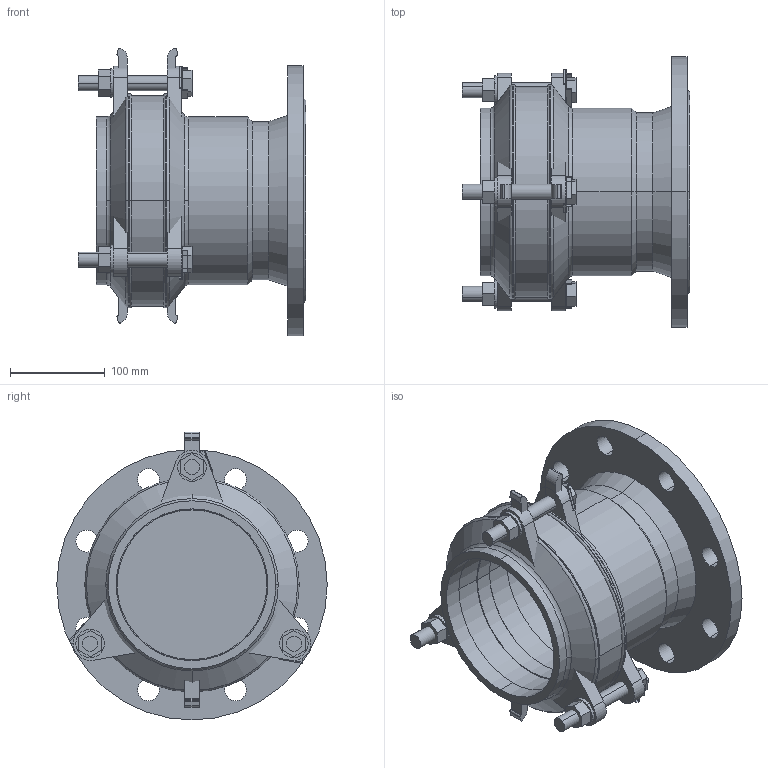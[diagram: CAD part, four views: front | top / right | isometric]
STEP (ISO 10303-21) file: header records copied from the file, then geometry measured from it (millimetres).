
FILE_DESCRIPTION(('STEP AP214'),'1');
FILE_NAME('EM00004947 DN 150-125.STP','2015-01-29T09:20:40',(' '),(' '),'Spatial InterOp 3D',' ',' ');
FILE_SCHEMA(('automotive_design'));
Length unit declared in the file: millimetre
Products named in the file (38): 3D-Objekt
Bounding box: 240 x 285 x 303.5 mm (x, y, z)
Volume: 2818549.7 mm3; surface area: 730094.3 mm2
Topology: 38 solids, 38 shells, 307 faces, 691 edges, 460 vertices
Faces by surface type: plane 186, cylinder 95, cone 14, torus 12
Entity records: 12021 total; most frequent: DIRECTION 1633, CARTESIAN_POINT 1496, ORIENTED_EDGE 1382, EDGE_CURVE 691, AXIS2_PLACEMENT_3D 597, VERTEX_POINT 460, LINE 439, VECTOR 439
